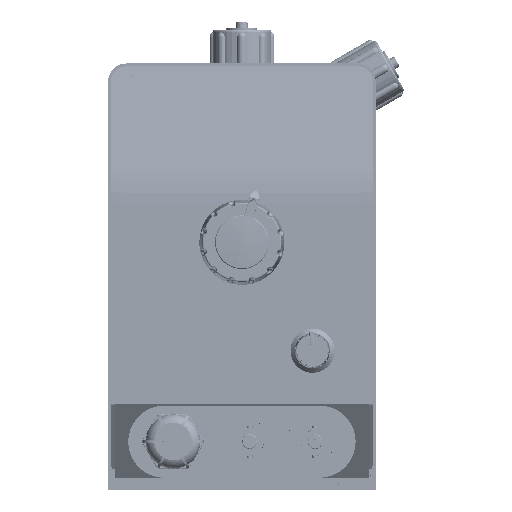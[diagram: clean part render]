
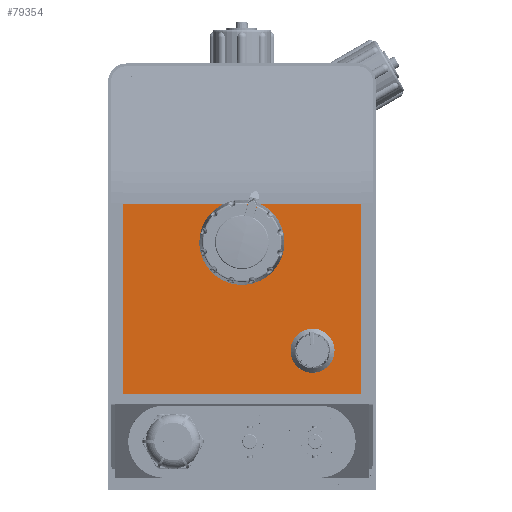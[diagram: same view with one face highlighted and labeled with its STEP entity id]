
A CAD part, top view. The second image highlights one B-rep face of the part: STEP entity #79354.
In plain terms, the highlighted planar face has unit normal (0, 0, 1).
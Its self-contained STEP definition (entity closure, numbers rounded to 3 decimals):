
#4315 = EDGE_CURVE ( 'NONE', #157999, #140002, #173402, .T. ) ;
#10599 = ORIENTED_EDGE ( 'NONE', *, *, #196808, .T. ) ;
#11813 = EDGE_LOOP ( 'NONE', ( #218269, #61412 ) ) ;
#12825 = LINE ( 'NONE', #35226, #105271 ) ;
#15883 = CARTESIAN_POINT ( 'NONE',  ( 24., -26.75, 75.3 ) ) ;
#15990 = DIRECTION ( 'NONE',  ( -1., 0., 0. ) ) ;
#18284 = DIRECTION ( 'NONE',  ( -1., 0., 0. ) ) ;
#21586 = LINE ( 'NONE', #110285, #53297 ) ;
#22960 = CARTESIAN_POINT ( 'NONE',  ( -7.5, 10.1, 75.3 ) ) ;
#23815 = EDGE_CURVE ( 'NONE', #123903, #46019, #186970, .T. ) ;
#27077 = FACE_BOUND ( 'NONE', #11813, .T. ) ;
#28420 = CARTESIAN_POINT ( 'NONE',  ( -40.5, -41.6, 75.3 ) ) ;
#34443 = DIRECTION ( 'NONE',  ( -1., 0., 0. ) ) ;
#35226 = CARTESIAN_POINT ( 'NONE',  ( -40.5, 28.545, 75.3 ) ) ;
#36390 = CARTESIAN_POINT ( 'NONE',  ( 7.5, 10.1, 75.3 ) ) ;
#36812 = PLANE ( 'NONE',  #142735 ) ;
#42674 = CARTESIAN_POINT ( 'NONE',  ( 24., -26.75, 75.3 ) ) ;
#44328 = EDGE_CURVE ( 'NONE', #182637, #110637, #21586, .T. ) ;
#44613 = VERTEX_POINT ( 'NONE', #211563 ) ;
#44715 = ORIENTED_EDGE ( 'NONE', *, *, #136757, .F. ) ;
#46019 = VERTEX_POINT ( 'NONE', #212331 ) ;
#46089 = AXIS2_PLACEMENT_3D ( 'NONE', #237571, #126614, #15990 ) ;
#46975 = DIRECTION ( 'NONE',  ( 1., 0., 0. ) ) ;
#49367 = CARTESIAN_POINT ( 'NONE',  ( 40.5, 28.545, 75.3 ) ) ;
#52949 = CARTESIAN_POINT ( 'NONE',  ( 28., -26.75, 75.3 ) ) ;
#53297 = VECTOR ( 'NONE', #18284, 1000. ) ;
#53782 = DIRECTION ( 'NONE',  ( 0., 1., 0. ) ) ;
#55318 = DIRECTION ( 'NONE',  ( 0., 0., -1. ) ) ;
#56555 = EDGE_CURVE ( 'NONE', #140002, #157999, #186389, .T. ) ;
#58977 = VECTOR ( 'NONE', #67893, 1000. ) ;
#60399 = CIRCLE ( 'NONE', #123244, 4. ) ;
#61195 = DIRECTION ( 'NONE',  ( -1., 0., 0. ) ) ;
#61412 = ORIENTED_EDGE ( 'NONE', *, *, #56555, .T. ) ;
#67893 = DIRECTION ( 'NONE',  ( 0., 1., 0. ) ) ;
#79354 = ADVANCED_FACE ( 'NONE', ( #27077, #125306, #223908 ), #36812, .F. ) ;
#80792 = AXIS2_PLACEMENT_3D ( 'NONE', #85668, #215199, #104173 ) ;
#85668 = CARTESIAN_POINT ( 'NONE',  ( 0., 10.1, 75.3 ) ) ;
#97644 = CARTESIAN_POINT ( 'NONE',  ( -40.5, 23.1, 75.3 ) ) ;
#102082 = CARTESIAN_POINT ( 'NONE',  ( 40.5, 23.1, 75.3 ) ) ;
#104173 = DIRECTION ( 'NONE',  ( -1., 0., 0. ) ) ;
#105271 = VECTOR ( 'NONE', #53782, 1000. ) ;
#107250 = AXIS2_PLACEMENT_3D ( 'NONE', #15883, #145137, #34443 ) ;
#110285 = CARTESIAN_POINT ( 'NONE',  ( -40.5, 23.1, 75.3 ) ) ;
#110637 = VERTEX_POINT ( 'NONE', #97644 ) ;
#117523 = VERTEX_POINT ( 'NONE', #52949 ) ;
#121152 = EDGE_LOOP ( 'NONE', ( #186831, #200508, #44715, #196281 ) ) ;
#123244 = AXIS2_PLACEMENT_3D ( 'NONE', #42674, #172059, #61195 ) ;
#123903 = VERTEX_POINT ( 'NONE', #125864 ) ;
#125306 = FACE_BOUND ( 'NONE', #200301, .T. ) ;
#125864 = CARTESIAN_POINT ( 'NONE',  ( -40.5, -41.6, 75.3 ) ) ;
#126614 = DIRECTION ( 'NONE',  ( 0., 0., -1. ) ) ;
#131847 = VECTOR ( 'NONE', #46975, 1000. ) ;
#136757 = EDGE_CURVE ( 'NONE', #123903, #110637, #12825, .T. ) ;
#140002 = VERTEX_POINT ( 'NONE', #36390 ) ;
#142735 = AXIS2_PLACEMENT_3D ( 'NONE', #166134, #55318, #184788 ) ;
#145137 = DIRECTION ( 'NONE',  ( 0., 0., -1. ) ) ;
#157999 = VERTEX_POINT ( 'NONE', #22960 ) ;
#166134 = CARTESIAN_POINT ( 'NONE',  ( -40.5, 28.545, 75.3 ) ) ;
#170162 = EDGE_CURVE ( 'NONE', #117523, #44613, #60399, .T. ) ;
#172059 = DIRECTION ( 'NONE',  ( 0., 0., -1. ) ) ;
#173402 = CIRCLE ( 'NONE', #80792, 7.5 ) ;
#182637 = VERTEX_POINT ( 'NONE', #102082 ) ;
#184788 = DIRECTION ( 'NONE',  ( -1., 0., 0. ) ) ;
#186389 = CIRCLE ( 'NONE', #46089, 7.5 ) ;
#186831 = ORIENTED_EDGE ( 'NONE', *, *, #220204, .T. ) ;
#186970 = LINE ( 'NONE', #28420, #131847 ) ;
#196281 = ORIENTED_EDGE ( 'NONE', *, *, #23815, .T. ) ;
#196808 = EDGE_CURVE ( 'NONE', #44613, #117523, #200902, .T. ) ;
#200301 = EDGE_LOOP ( 'NONE', ( #10599, #213372 ) ) ;
#200508 = ORIENTED_EDGE ( 'NONE', *, *, #44328, .T. ) ;
#200902 = CIRCLE ( 'NONE', #107250, 4. ) ;
#206715 = LINE ( 'NONE', #49367, #58977 ) ;
#211563 = CARTESIAN_POINT ( 'NONE',  ( 20., -26.75, 75.3 ) ) ;
#212331 = CARTESIAN_POINT ( 'NONE',  ( 40.5, -41.6, 75.3 ) ) ;
#213372 = ORIENTED_EDGE ( 'NONE', *, *, #170162, .T. ) ;
#215199 = DIRECTION ( 'NONE',  ( 0., 0., -1. ) ) ;
#218269 = ORIENTED_EDGE ( 'NONE', *, *, #4315, .T. ) ;
#220204 = EDGE_CURVE ( 'NONE', #46019, #182637, #206715, .T. ) ;
#223908 = FACE_OUTER_BOUND ( 'NONE', #121152, .T. ) ;
#237571 = CARTESIAN_POINT ( 'NONE',  ( 0., 10.1, 75.3 ) ) ;
